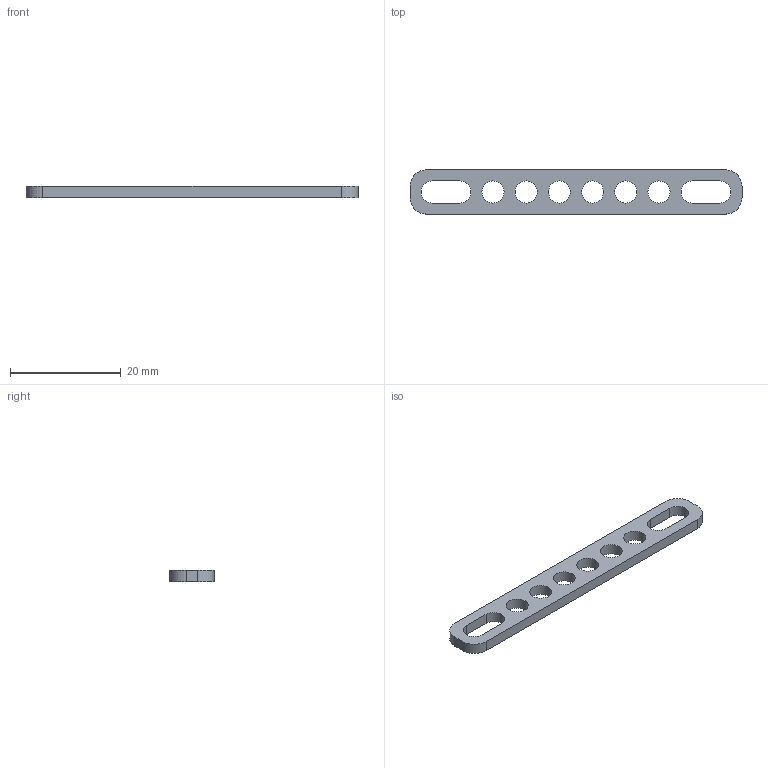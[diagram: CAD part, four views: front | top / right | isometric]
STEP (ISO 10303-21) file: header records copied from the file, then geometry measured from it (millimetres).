
FILE_DESCRIPTION(/* description */ (''),/* implementation_level */ '2;1');
FILE_NAME(/* name */ '',/* time_stamp */ '2026-05-08T17:23:28+08:00',/* author */ ('32769'),/* organization */ (''),/* preprocessor_version */ 'ST-DEVELOPER v20',/* originating_system */ 'Autodesk Inventor 2025',/* authorisation */ '');
FILE_SCHEMA (('AUTOMOTIVE_DESIGN { 1 0 10303 214 3 1 1 }'));
Length unit declared in the file: millimetre
Products named in the file (1): 1521249-8-0037 PeekÍâ¿ÇÖ§³Å
Bounding box: 60 x 8 x 2 mm (x, y, z)
Volume: 663.5 mm3; surface area: 1166.2 mm2
Topology: 1 solids, 1 shells, 24 faces, 66 edges, 44 vertices
Faces by surface type: cylinder 14, plane 10
Full cylindrical faces by diameter (mm): 4 x6
Entity records: 853 total; most frequent: DIRECTION 144, CARTESIAN_POINT 135, ORIENTED_EDGE 132, EDGE_CURVE 66, AXIS2_PLACEMENT_3D 53, VERTEX_POINT 44, EDGE_LOOP 40, LINE 38
